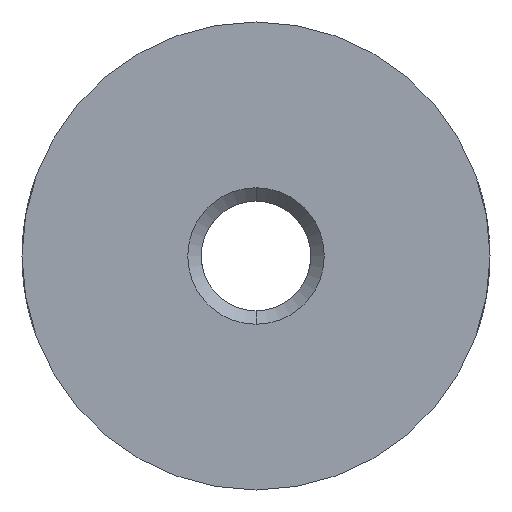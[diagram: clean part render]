
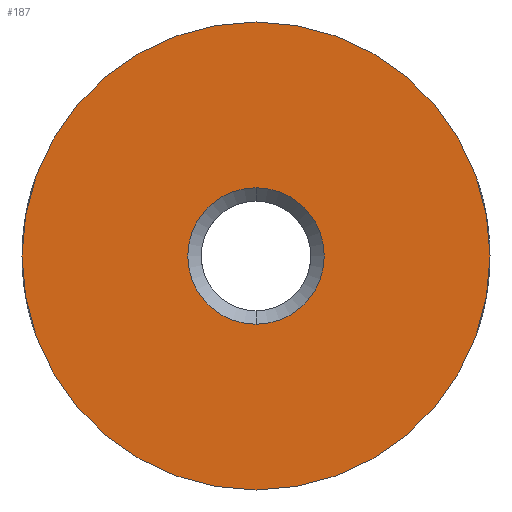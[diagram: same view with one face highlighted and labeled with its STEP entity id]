
A CAD part, front view. The second image highlights one B-rep face of the part: STEP entity #187.
In plain terms, the highlighted planar face has unit normal (0, -1, 0).
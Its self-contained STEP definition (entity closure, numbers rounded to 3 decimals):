
#2 = EDGE_LOOP ( 'NONE', ( #604, #493 ) ) ;
#26 = EDGE_LOOP ( 'NONE', ( #88, #99 ) ) ;
#78 = DIRECTION ( 'NONE',  ( 0., 0., 1. ) ) ;
#79 = VERTEX_POINT ( 'NONE', #913 ) ;
#88 = ORIENTED_EDGE ( 'NONE', *, *, #309, .F. ) ;
#98 = DIRECTION ( 'NONE',  ( 0., 0., 1. ) ) ;
#99 = ORIENTED_EDGE ( 'NONE', *, *, #428, .F. ) ;
#122 = AXIS2_PLACEMENT_3D ( 'NONE', #340, #626, #770 ) ;
#167 = DIRECTION ( 'NONE',  ( 0., 1., 0. ) ) ;
#187 = ADVANCED_FACE ( 'NONE', ( #908, #845 ), #466, .F. ) ;
#194 = EDGE_CURVE ( 'NONE', #916, #502, #220, .T. ) ;
#220 = CIRCLE ( 'NONE', #452, 0.51 ) ;
#256 = DIRECTION ( 'NONE',  ( 0., 0., 1. ) ) ;
#273 = DIRECTION ( 'NONE',  ( 0., 0., 1. ) ) ;
#292 = CARTESIAN_POINT ( 'NONE',  ( 0., 0., 0. ) ) ;
#309 = EDGE_CURVE ( 'NONE', #79, #878, #417, .T. ) ;
#324 = CARTESIAN_POINT ( 'NONE',  ( 0., 0., 0. ) ) ;
#340 = CARTESIAN_POINT ( 'NONE',  ( 0., 0., 0. ) ) ;
#358 = DIRECTION ( 'NONE',  ( 0., 1., 0. ) ) ;
#417 = CIRCLE ( 'NONE', #568, 1.75 ) ;
#428 = EDGE_CURVE ( 'NONE', #878, #79, #871, .T. ) ;
#452 = AXIS2_PLACEMENT_3D ( 'NONE', #292, #723, #78 ) ;
#466 = PLANE ( 'NONE',  #586 ) ;
#493 = ORIENTED_EDGE ( 'NONE', *, *, #194, .T. ) ;
#502 = VERTEX_POINT ( 'NONE', #648 ) ;
#568 = AXIS2_PLACEMENT_3D ( 'NONE', #623, #616, #256 ) ;
#586 = AXIS2_PLACEMENT_3D ( 'NONE', #324, #167, #98 ) ;
#604 = ORIENTED_EDGE ( 'NONE', *, *, #917, .T. ) ;
#616 = DIRECTION ( 'NONE',  ( 0., 1., 0. ) ) ;
#621 = CIRCLE ( 'NONE', #122, 0.51 ) ;
#623 = CARTESIAN_POINT ( 'NONE',  ( 0., 0., 0. ) ) ;
#626 = DIRECTION ( 'NONE',  ( 0., 1., 0. ) ) ;
#633 = CARTESIAN_POINT ( 'NONE',  ( 0., 0., 0. ) ) ;
#648 = CARTESIAN_POINT ( 'NONE',  ( 0., 0., -0.51 ) ) ;
#701 = CARTESIAN_POINT ( 'NONE',  ( 0., 0., 0.51 ) ) ;
#723 = DIRECTION ( 'NONE',  ( 0., 1., 0. ) ) ;
#725 = AXIS2_PLACEMENT_3D ( 'NONE', #633, #358, #273 ) ;
#770 = DIRECTION ( 'NONE',  ( 0., 0., 1. ) ) ;
#826 = CARTESIAN_POINT ( 'NONE',  ( 0., 0., 1.75 ) ) ;
#845 = FACE_OUTER_BOUND ( 'NONE', #26, .T. ) ;
#871 = CIRCLE ( 'NONE', #725, 1.75 ) ;
#878 = VERTEX_POINT ( 'NONE', #826 ) ;
#908 = FACE_BOUND ( 'NONE', #2, .T. ) ;
#913 = CARTESIAN_POINT ( 'NONE',  ( 0., 0., -1.75 ) ) ;
#916 = VERTEX_POINT ( 'NONE', #701 ) ;
#917 = EDGE_CURVE ( 'NONE', #502, #916, #621, .T. ) ;
